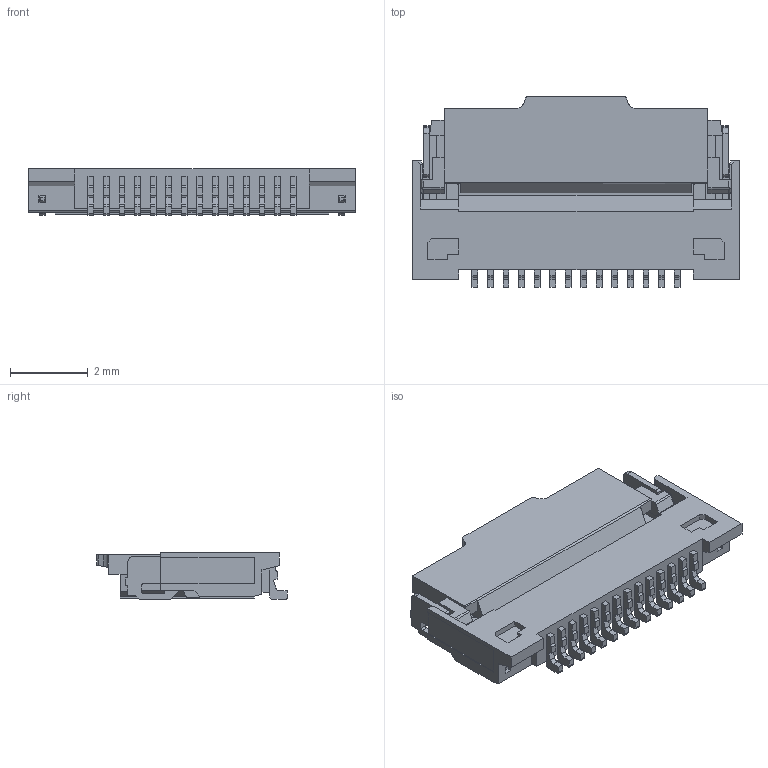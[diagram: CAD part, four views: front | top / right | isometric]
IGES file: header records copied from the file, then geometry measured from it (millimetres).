
Start section: START RECORD GO HERE.
Global section: file name: 00_6287_614_012_868_+.igs; native system: IBM CATIA IGES - CATIA Version 5 Release 14 ; preprocessor: CATIA Version 5 Release 14 ; author: Engineering Dept.; organization: KYOCERA ELCO Corporation; date: 20100910.133058; units: millimetre
Bounding box: 8.4 x 4.9 x 1.2 mm (x, y, z)
Surface area: 162.8 mm2 (no closed solid volume)
Topology: 0 solids, 514 shells, 514 faces, 3022 edges, 3020 vertices
Faces by surface type: plane 414, revolution 100
